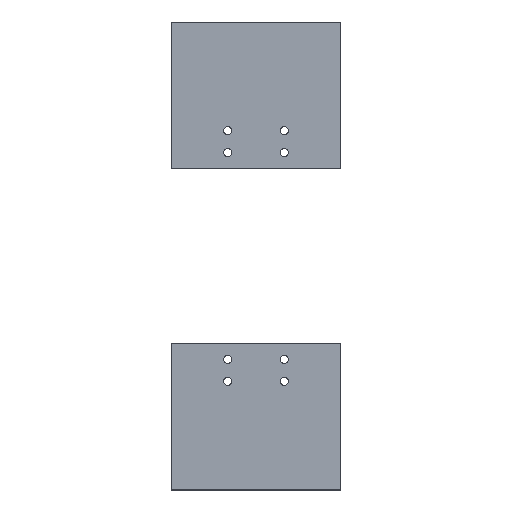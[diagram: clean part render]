
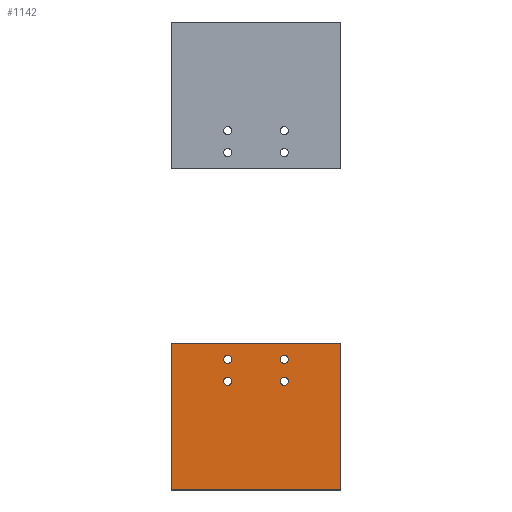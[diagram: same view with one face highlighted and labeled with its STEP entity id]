
A CAD part, top view. The second image highlights one B-rep face of the part: STEP entity #1142.
In plain terms, the highlighted planar face has unit normal (0, 0, 1).
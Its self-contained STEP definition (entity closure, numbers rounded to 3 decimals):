
#24 = DIRECTION ( 'NONE',  ( 0., 0., 1. ) ) ;
#31 = CIRCLE ( 'NONE', #338, 2.7 ) ;
#41 = CARTESIAN_POINT ( 'NONE',  ( 56., -155., 0. ) ) ;
#50 = DIRECTION ( 'NONE',  ( 1., 0., 0. ) ) ;
#114 = CARTESIAN_POINT ( 'NONE',  ( 18.75, -68.5, 0. ) ) ;
#124 = AXIS2_PLACEMENT_3D ( 'NONE', #531, #1280, #434 ) ;
#125 = CARTESIAN_POINT ( 'NONE',  ( -18.75, -83., 0. ) ) ;
#138 = CARTESIAN_POINT ( 'NONE',  ( 56., -58., 0. ) ) ;
#165 = LINE ( 'NONE', #410, #1200 ) ;
#166 = VERTEX_POINT ( 'NONE', #168 ) ;
#168 = CARTESIAN_POINT ( 'NONE',  ( 16.05, -83., 0. ) ) ;
#171 = VERTEX_POINT ( 'NONE', #1219 ) ;
#200 = CARTESIAN_POINT ( 'NONE',  ( 16.05, -68.5, 0. ) ) ;
#223 = CARTESIAN_POINT ( 'NONE',  ( -16.05, -83., 0. ) ) ;
#230 = EDGE_LOOP ( 'NONE', ( #287, #464 ) ) ;
#234 = ORIENTED_EDGE ( 'NONE', *, *, #670, .T. ) ;
#241 = EDGE_CURVE ( 'NONE', #1232, #1171, #773, .T. ) ;
#242 = VECTOR ( 'NONE', #50, 1000. ) ;
#243 = DIRECTION ( 'NONE',  ( -1., 0., 0. ) ) ;
#254 = EDGE_CURVE ( 'NONE', #776, #512, #165, .T. ) ;
#257 = VERTEX_POINT ( 'NONE', #200 ) ;
#260 = DIRECTION ( 'NONE',  ( 0., 1., 0. ) ) ;
#278 = AXIS2_PLACEMENT_3D ( 'NONE', #1256, #1050, #602 ) ;
#282 = CARTESIAN_POINT ( 'NONE',  ( 56., -155., 0. ) ) ;
#286 = CARTESIAN_POINT ( 'NONE',  ( 21.45, -68.5, 0. ) ) ;
#287 = ORIENTED_EDGE ( 'NONE', *, *, #542, .F. ) ;
#315 = AXIS2_PLACEMENT_3D ( 'NONE', #349, #24, #873 ) ;
#328 = LINE ( 'NONE', #389, #520 ) ;
#338 = AXIS2_PLACEMENT_3D ( 'NONE', #492, #1010, #378 ) ;
#348 = DIRECTION ( 'NONE',  ( 0., 0., 1. ) ) ;
#349 = CARTESIAN_POINT ( 'NONE',  ( -18.75, -68.5, 0. ) ) ;
#356 = ORIENTED_EDGE ( 'NONE', *, *, #254, .T. ) ;
#357 = VECTOR ( 'NONE', #243, 1000. ) ;
#361 = EDGE_CURVE ( 'NONE', #774, #668, #1287, .T. ) ;
#365 = DIRECTION ( 'NONE',  ( 0., 0., 1. ) ) ;
#366 = FACE_BOUND ( 'NONE', #868, .T. ) ;
#378 = DIRECTION ( 'NONE',  ( -1., 0., 0. ) ) ;
#386 = EDGE_LOOP ( 'NONE', ( #551, #982 ) ) ;
#388 = FACE_BOUND ( 'NONE', #230, .T. ) ;
#389 = CARTESIAN_POINT ( 'NONE',  ( 56., -155., 0. ) ) ;
#410 = CARTESIAN_POINT ( 'NONE',  ( -56., -155., 0. ) ) ;
#420 = CARTESIAN_POINT ( 'NONE',  ( -18.75, -68.5, 0. ) ) ;
#430 = PLANE ( 'NONE',  #124 ) ;
#431 = AXIS2_PLACEMENT_3D ( 'NONE', #125, #348, #444 ) ;
#434 = DIRECTION ( 'NONE',  ( -1., 0., 0. ) ) ;
#444 = DIRECTION ( 'NONE',  ( -1., 0., 0. ) ) ;
#464 = ORIENTED_EDGE ( 'NONE', *, *, #361, .F. ) ;
#480 = EDGE_LOOP ( 'NONE', ( #1288, #1101, #356, #234 ) ) ;
#492 = CARTESIAN_POINT ( 'NONE',  ( 18.75, -68.5, 0. ) ) ;
#512 = VERTEX_POINT ( 'NONE', #548 ) ;
#520 = VECTOR ( 'NONE', #260, 1000. ) ;
#531 = CARTESIAN_POINT ( 'NONE',  ( 0., -83., 0. ) ) ;
#542 = EDGE_CURVE ( 'NONE', #668, #774, #558, .T. ) ;
#546 = ORIENTED_EDGE ( 'NONE', *, *, #743, .F. ) ;
#548 = CARTESIAN_POINT ( 'NONE',  ( -56., -155., 0. ) ) ;
#551 = ORIENTED_EDGE ( 'NONE', *, *, #812, .F. ) ;
#558 = CIRCLE ( 'NONE', #315, 2.7 ) ;
#571 = DIRECTION ( 'NONE',  ( 0., 0., 1. ) ) ;
#580 = FACE_BOUND ( 'NONE', #896, .T. ) ;
#598 = EDGE_CURVE ( 'NONE', #639, #166, #1148, .T. ) ;
#602 = DIRECTION ( 'NONE',  ( -1., 0., 0. ) ) ;
#634 = DIRECTION ( 'NONE',  ( -1., 0., 0. ) ) ;
#639 = VERTEX_POINT ( 'NONE', #1220 ) ;
#657 = CIRCLE ( 'NONE', #945, 2.7 ) ;
#668 = VERTEX_POINT ( 'NONE', #1103 ) ;
#670 = EDGE_CURVE ( 'NONE', #512, #722, #1077, .T. ) ;
#675 = CIRCLE ( 'NONE', #431, 2.7 ) ;
#676 = DIRECTION ( 'NONE',  ( -1., 0., 0. ) ) ;
#720 = ORIENTED_EDGE ( 'NONE', *, *, #969, .F. ) ;
#722 = VERTEX_POINT ( 'NONE', #282 ) ;
#743 = EDGE_CURVE ( 'NONE', #1374, #257, #31, .T. ) ;
#753 = DIRECTION ( 'NONE',  ( -1., 0., 0. ) ) ;
#773 = CIRCLE ( 'NONE', #278, 2.7 ) ;
#774 = VERTEX_POINT ( 'NONE', #1336 ) ;
#776 = VERTEX_POINT ( 'NONE', #1128 ) ;
#797 = AXIS2_PLACEMENT_3D ( 'NONE', #420, #960, #634 ) ;
#812 = EDGE_CURVE ( 'NONE', #1171, #1232, #675, .T. ) ;
#843 = EDGE_CURVE ( 'NONE', #171, #776, #1260, .T. ) ;
#859 = EDGE_CURVE ( 'NONE', #722, #171, #328, .T. ) ;
#860 = DIRECTION ( 'NONE',  ( 0., 0., 1. ) ) ;
#868 = EDGE_LOOP ( 'NONE', ( #546, #1294 ) ) ;
#873 = DIRECTION ( 'NONE',  ( -1., 0., 0. ) ) ;
#889 = CARTESIAN_POINT ( 'NONE',  ( 18.75, -83., 0. ) ) ;
#896 = EDGE_LOOP ( 'NONE', ( #1271, #720 ) ) ;
#923 = CARTESIAN_POINT ( 'NONE',  ( 18.75, -83., 0. ) ) ;
#943 = DIRECTION ( 'NONE',  ( 0., -1., 0. ) ) ;
#945 = AXIS2_PLACEMENT_3D ( 'NONE', #923, #365, #1104 ) ;
#960 = DIRECTION ( 'NONE',  ( 0., 0., 1. ) ) ;
#969 = EDGE_CURVE ( 'NONE', #166, #639, #657, .T. ) ;
#972 = AXIS2_PLACEMENT_3D ( 'NONE', #889, #571, #676 ) ;
#982 = ORIENTED_EDGE ( 'NONE', *, *, #241, .F. ) ;
#1010 = DIRECTION ( 'NONE',  ( 0., 0., 1. ) ) ;
#1050 = DIRECTION ( 'NONE',  ( 0., 0., 1. ) ) ;
#1077 = LINE ( 'NONE', #41, #242 ) ;
#1078 = AXIS2_PLACEMENT_3D ( 'NONE', #114, #860, #753 ) ;
#1101 = ORIENTED_EDGE ( 'NONE', *, *, #843, .T. ) ;
#1103 = CARTESIAN_POINT ( 'NONE',  ( -16.05, -68.5, 0. ) ) ;
#1104 = DIRECTION ( 'NONE',  ( -1., 0., 0. ) ) ;
#1115 = FACE_OUTER_BOUND ( 'NONE', #480, .T. ) ;
#1128 = CARTESIAN_POINT ( 'NONE',  ( -56., -58., 0. ) ) ;
#1142 = ADVANCED_FACE ( 'NONE', ( #366, #580, #1115, #1188, #388 ), #430, .T. ) ;
#1148 = CIRCLE ( 'NONE', #972, 2.7 ) ;
#1171 = VERTEX_POINT ( 'NONE', #223 ) ;
#1172 = EDGE_CURVE ( 'NONE', #257, #1374, #1173, .T. ) ;
#1173 = CIRCLE ( 'NONE', #1078, 2.7 ) ;
#1188 = FACE_BOUND ( 'NONE', #386, .T. ) ;
#1200 = VECTOR ( 'NONE', #943, 1000. ) ;
#1219 = CARTESIAN_POINT ( 'NONE',  ( 56., -58., 0. ) ) ;
#1220 = CARTESIAN_POINT ( 'NONE',  ( 21.45, -83., 0. ) ) ;
#1232 = VERTEX_POINT ( 'NONE', #1274 ) ;
#1256 = CARTESIAN_POINT ( 'NONE',  ( -18.75, -83., 0. ) ) ;
#1260 = LINE ( 'NONE', #138, #357 ) ;
#1271 = ORIENTED_EDGE ( 'NONE', *, *, #598, .F. ) ;
#1274 = CARTESIAN_POINT ( 'NONE',  ( -21.45, -83., 0. ) ) ;
#1280 = DIRECTION ( 'NONE',  ( 0., 0., 1. ) ) ;
#1287 = CIRCLE ( 'NONE', #797, 2.7 ) ;
#1288 = ORIENTED_EDGE ( 'NONE', *, *, #859, .T. ) ;
#1294 = ORIENTED_EDGE ( 'NONE', *, *, #1172, .F. ) ;
#1336 = CARTESIAN_POINT ( 'NONE',  ( -21.45, -68.5, 0. ) ) ;
#1374 = VERTEX_POINT ( 'NONE', #286 ) ;
